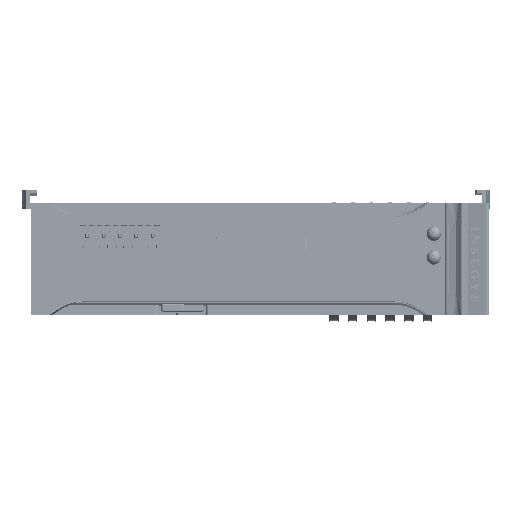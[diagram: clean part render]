
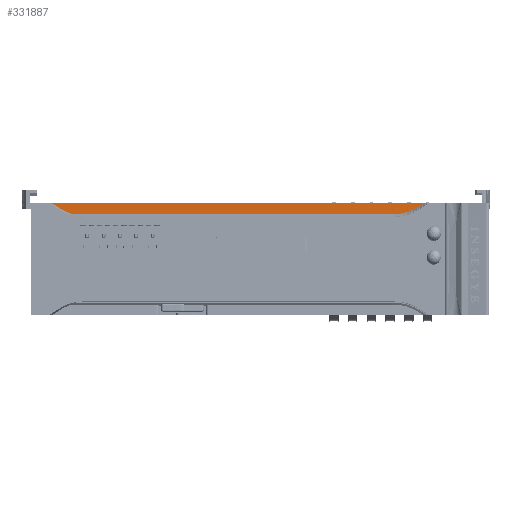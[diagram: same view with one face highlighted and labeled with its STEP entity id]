
A CAD part, front view. The second image highlights one B-rep face of the part: STEP entity #331887.
In plain terms, the highlighted planar face has unit normal (0, -1, 0).
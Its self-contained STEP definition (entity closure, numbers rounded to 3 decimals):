
#315721=CARTESIAN_POINT('',(36.062,-30.875,
10.438));
#315722=CARTESIAN_POINT('',(36.251,-30.875,
10.564));
#315723=CARTESIAN_POINT('',(36.46,-30.875,
10.625));
#315724=CARTESIAN_POINT('',(36.688,-30.875,
10.625));
#315752=CARTESIAN_POINT('',(-43.979,-30.875,
10.625));
#315753=CARTESIAN_POINT('',(-43.752,-30.875,
10.625));
#315754=CARTESIAN_POINT('',(-43.543,-30.875,
10.564));
#315755=CARTESIAN_POINT('',(-43.354,-30.875,
10.438));
#315757=DIRECTION('',(1.,0.,0.));
#315758=VECTOR('',#315757,80.667);
#315759=CARTESIAN_POINT('',(-43.979,-30.875,
10.625));
#315760=LINE('',#315759,#315758);
#315761=DIRECTION('',(0.832,0.,0.555));
#315762=VECTOR('',#315761,1.486);
#315763=CARTESIAN_POINT('',(34.826,-30.875,
9.613));
#315764=LINE('',#315763,#315762);
#315765=CARTESIAN_POINT('',(34.826,-30.875,
9.613));
#315766=CARTESIAN_POINT('',(34.634,-30.875,
9.485));
#315767=CARTESIAN_POINT('',(34.241,-30.875,
9.244));
#315768=CARTESIAN_POINT('',(33.625,-30.875,
8.925));
#315769=CARTESIAN_POINT('',(32.989,-30.875,
8.651));
#315770=CARTESIAN_POINT('',(32.334,-30.875,
8.424));
#315771=CARTESIAN_POINT('',(31.664,-30.875,
8.248));
#315772=CARTESIAN_POINT('',(30.981,-30.875,
8.119));
#315773=CARTESIAN_POINT('',(30.284,-30.875,
8.04));
#315774=CARTESIAN_POINT('',(29.812,-30.875,
8.022));
#315775=CARTESIAN_POINT('',(29.574,-30.875,
8.022));
#315777=DIRECTION('',(1.,0.,0.));
#315778=VECTOR('',#315777,66.438);
#315779=CARTESIAN_POINT('',(-36.864,-30.875,
8.022));
#315780=LINE('',#315779,#315778);
#315781=CARTESIAN_POINT('',(-36.864,-30.875,
8.022));
#315782=CARTESIAN_POINT('',(-37.103,-30.875,
8.022));
#315783=CARTESIAN_POINT('',(-37.576,-30.875,
8.04));
#315784=CARTESIAN_POINT('',(-38.279,-30.875,
8.12));
#315785=CARTESIAN_POINT('',(-38.968,-30.875,
8.25));
#315786=CARTESIAN_POINT('',(-39.64,-30.875,
8.429));
#315787=CARTESIAN_POINT('',(-40.292,-30.875,
8.656));
#315788=CARTESIAN_POINT('',(-40.923,-30.875,
8.928));
#315789=CARTESIAN_POINT('',(-41.533,-30.875,
9.245));
#315790=CARTESIAN_POINT('',(-41.925,-30.875,
9.485));
#315791=CARTESIAN_POINT('',(-42.116,-30.875,
9.613));
#315793=DIRECTION('',(0.832,0.,-0.555));
#315794=VECTOR('',#315793,1.488);
#315795=CARTESIAN_POINT('',(-43.354,-30.875,
10.438));
#315796=LINE('',#315795,#315794);
#319250=VERTEX_POINT('',#315781);
#319251=VERTEX_POINT('',#315791);
#319252=CARTESIAN_POINT('',(29.574,-30.875,
8.022));
#319253=VERTEX_POINT('',#319252);
#319254=VERTEX_POINT('',#315765);
#319261=CARTESIAN_POINT('',(-43.354,-30.875,
10.438));
#319263=VERTEX_POINT('',#319261);
#319265=CARTESIAN_POINT('',(-43.979,-30.875,
10.625));
#319266=VERTEX_POINT('',#319265);
#319279=CARTESIAN_POINT('',(36.062,-30.875,
10.438));
#319280=VERTEX_POINT('',#319279);
#319281=CARTESIAN_POINT('',(36.688,-30.875,
10.625));
#319282=VERTEX_POINT('',#319281);
#331872=CARTESIAN_POINT('',(-55.557,-30.875,
16.972));
#331873=DIRECTION('',(0.,-1.,0.));
#331874=DIRECTION('',(0.,0.,-1.));
#331875=AXIS2_PLACEMENT_3D('',#331872,#331873,#331874);
#331876=PLANE('',#331875);
#331877=ORIENTED_EDGE('',*,*,#323973,.T.);
#331878=ORIENTED_EDGE('',*,*,#331735,.F.);
#331879=ORIENTED_EDGE('',*,*,#331750,.F.);
#331880=ORIENTED_EDGE('',*,*,#331787,.T.);
#331881=ORIENTED_EDGE('',*,*,#331801,.F.);
#331882=ORIENTED_EDGE('',*,*,#331839,.T.);
#331883=ORIENTED_EDGE('',*,*,#331852,.F.);
#331884=ORIENTED_EDGE('',*,*,#331867,.F.);
#331885=EDGE_LOOP('',(#331877,#331878,#331879,#331880,#331881,#331882,#331883,
#331884));
#331886=FACE_OUTER_BOUND('',#331885,.F.);
#331887=ADVANCED_FACE('',(#331886),#331876,.T.);
#315725=B_SPLINE_CURVE_WITH_KNOTS('',3,(#315721,#315722,#315723,#315724),
.UNSPECIFIED.,.F.,.F.,(4,4),(0.,1.),.UNSPECIFIED.);
#315756=B_SPLINE_CURVE_WITH_KNOTS('',3,(#315752,#315753,#315754,#315755),
.UNSPECIFIED.,.F.,.F.,(4,4),(0.,1.),.UNSPECIFIED.);
#315776=B_SPLINE_CURVE_WITH_KNOTS('',3,(#315765,#315766,#315767,#315768,#315769,
#315770,#315771,#315772,#315773,#315774,#315775),.UNSPECIFIED.,.F.,.F.,(4,1,1,1,
1,1,1,1,4),(0.,0.125,0.25,0.375,0.5,0.625,0.75,0.875,1.),
.UNSPECIFIED.);
#315792=B_SPLINE_CURVE_WITH_KNOTS('',3,(#315781,#315782,#315783,#315784,#315785,
#315786,#315787,#315788,#315789,#315790,#315791),.UNSPECIFIED.,.F.,.F.,(4,1,1,1,
1,1,1,1,4),(0.,0.125,0.25,0.375,0.5,0.625,0.75,0.875,1.),
.UNSPECIFIED.);
#323973=EDGE_CURVE('',#319266,#319282,#315760,.T.);
#331735=EDGE_CURVE('',#319280,#319282,#315725,.T.);
#331750=EDGE_CURVE('',#319254,#319280,#315764,.T.);
#331787=EDGE_CURVE('',#319254,#319253,#315776,.T.);
#331801=EDGE_CURVE('',#319250,#319253,#315780,.T.);
#331839=EDGE_CURVE('',#319250,#319251,#315792,.T.);
#331852=EDGE_CURVE('',#319263,#319251,#315796,.T.);
#331867=EDGE_CURVE('',#319266,#319263,#315756,.T.);
